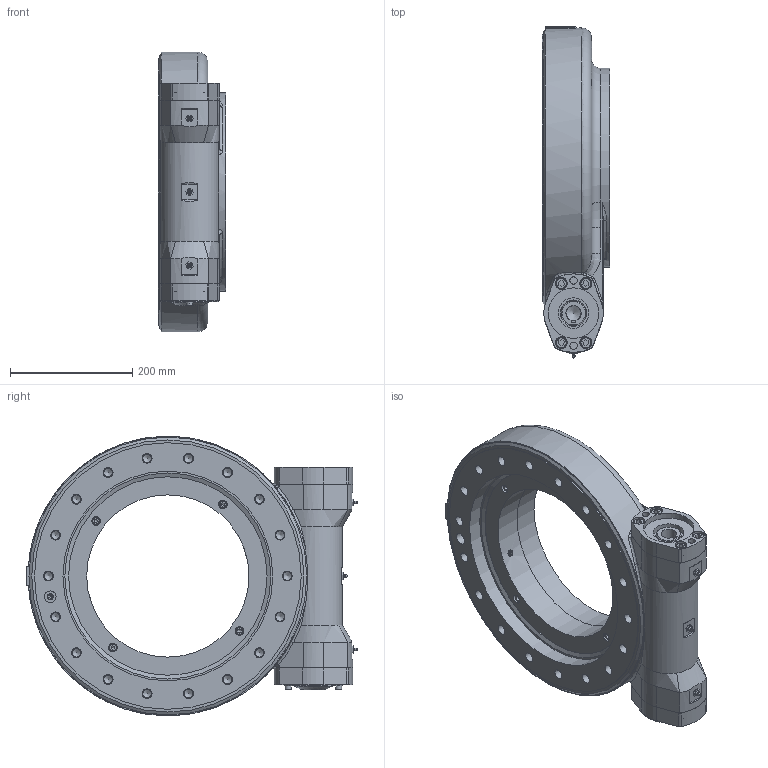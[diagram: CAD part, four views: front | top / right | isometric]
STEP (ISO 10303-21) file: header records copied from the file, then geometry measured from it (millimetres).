
FILE_DESCRIPTION (( 'STEP AP214' ), '1' );
FILE_NAME ('FGE14-85M-25H-R-REV.A.STEP', '2023-09-06T05:23:02', ( '' ), ( '' ), 'SwSTEP 2.0', 'SolidWorks 2018', '' );
FILE_SCHEMA (( 'AUTOMOTIVE_DESIGN' ));
Length unit declared in the file: millimetre
Products named in the file (1): FGE14-85M-25H-R-REV.A
Bounding box: 110 x 541.89 x 456.55 mm (x, y, z)
Volume: 8384259.7 mm3; surface area: 1352867.9 mm2
Topology: 19 solids, 19 shells, 931 faces, 2030 edges, 1291 vertices
Faces by surface type: plane 409, cylinder 317, cone 103, torus 54, bspline 43, sphere 5
Full cylindrical faces by diameter (mm): 4.58 x1, 5 x3, 6 x3, 6.8 x4, 7 x5, 7.42 x1, 8 x13, 9 x6, 9.093 x1, 10 x8, 10.084 x1, 10.2 x8, 12 x10, 13 x13, 14 x45, 16 x41, 18 x32, 19 x1, 19.5 x8, 24 x1, 25.4 x1, 35 x1, 40 x4, 41.908 x2, 47 x2, 50 x4, 57 x1, 66 x2, 68.5 x2, 72 x1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
Entity records: 36733 total; most frequent: CARTESIAN_POINT 7921, DIRECTION 3908, ORIENTED_EDGE 3010, AXIS2_PLACEMENT_3D 1659, EDGE_LOOP 1570, EDGE_CURVE 1505, FACE_OUTER_BOUND 1223, VERTEX_POINT 1165
